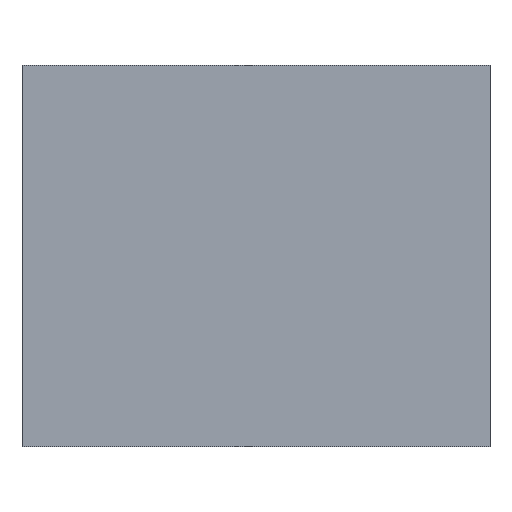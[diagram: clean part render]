
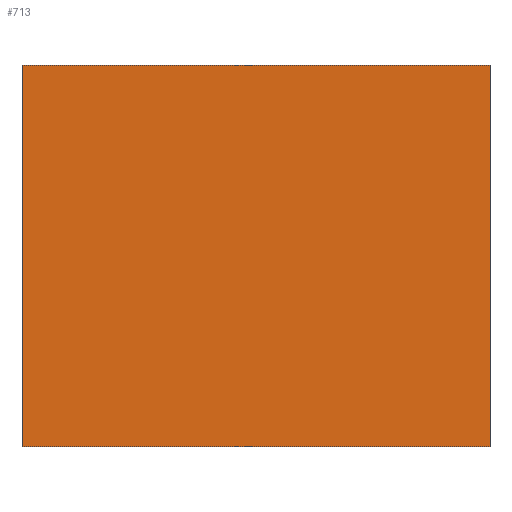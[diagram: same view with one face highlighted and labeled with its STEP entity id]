
A CAD part, top view. The second image highlights one B-rep face of the part: STEP entity #713.
In plain terms, the highlighted planar face has unit normal (0, 0, 1).
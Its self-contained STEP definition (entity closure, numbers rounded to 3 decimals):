
#22 = ORIENTED_EDGE ( 'NONE', *, *, #469, .T. ) ;
#85 = ORIENTED_EDGE ( 'NONE', *, *, #343, .T. ) ;
#98 = VERTEX_POINT ( 'NONE', #165 ) ;
#107 = VECTOR ( 'NONE', #540, 1000. ) ;
#116 = CARTESIAN_POINT ( 'NONE',  ( 350., 285., 15. ) ) ;
#128 = DIRECTION ( 'NONE',  ( -1., 0., 0. ) ) ;
#136 = DIRECTION ( 'NONE',  ( 0., 1., 0. ) ) ;
#165 = CARTESIAN_POINT ( 'NONE',  ( 350., 0., 15. ) ) ;
#179 = LINE ( 'NONE', #721, #633 ) ;
#203 = CARTESIAN_POINT ( 'NONE',  ( 0., 0., 15. ) ) ;
#221 = ORIENTED_EDGE ( 'NONE', *, *, #335, .T. ) ;
#228 = CARTESIAN_POINT ( 'NONE',  ( 0., 0., 15. ) ) ;
#260 = VERTEX_POINT ( 'NONE', #116 ) ;
#309 = EDGE_LOOP ( 'NONE', ( #85, #22, #347, #221 ) ) ;
#329 = AXIS2_PLACEMENT_3D ( 'NONE', #203, #501, #617 ) ;
#335 = EDGE_CURVE ( 'NONE', #260, #624, #179, .T. ) ;
#343 = EDGE_CURVE ( 'NONE', #624, #502, #505, .T. ) ;
#347 = ORIENTED_EDGE ( 'NONE', *, *, #533, .T. ) ;
#361 = FACE_OUTER_BOUND ( 'NONE', #309, .T. ) ;
#365 = CARTESIAN_POINT ( 'NONE',  ( 0., 0., 15. ) ) ;
#379 = CARTESIAN_POINT ( 'NONE',  ( 350., 0., 15. ) ) ;
#440 = CARTESIAN_POINT ( 'NONE',  ( 0., 0., 15. ) ) ;
#469 = EDGE_CURVE ( 'NONE', #502, #98, #472, .T. ) ;
#470 = VECTOR ( 'NONE', #136, 1000. ) ;
#472 = LINE ( 'NONE', #228, #626 ) ;
#501 = DIRECTION ( 'NONE',  ( 0., 0., -1. ) ) ;
#502 = VERTEX_POINT ( 'NONE', #440 ) ;
#505 = LINE ( 'NONE', #365, #107 ) ;
#533 = EDGE_CURVE ( 'NONE', #98, #260, #534, .T. ) ;
#534 = LINE ( 'NONE', #379, #470 ) ;
#540 = DIRECTION ( 'NONE',  ( 0., -1., 0. ) ) ;
#617 = DIRECTION ( 'NONE',  ( -1., 0., 0. ) ) ;
#624 = VERTEX_POINT ( 'NONE', #739 ) ;
#626 = VECTOR ( 'NONE', #648, 1000. ) ;
#633 = VECTOR ( 'NONE', #128, 1000. ) ;
#648 = DIRECTION ( 'NONE',  ( 1., 0., 0. ) ) ;
#713 = ADVANCED_FACE ( 'NONE', ( #361 ), #737, .F. ) ;
#721 = CARTESIAN_POINT ( 'NONE',  ( 0., 285., 15. ) ) ;
#737 = PLANE ( 'NONE',  #329 ) ;
#739 = CARTESIAN_POINT ( 'NONE',  ( 0., 285., 15. ) ) ;
